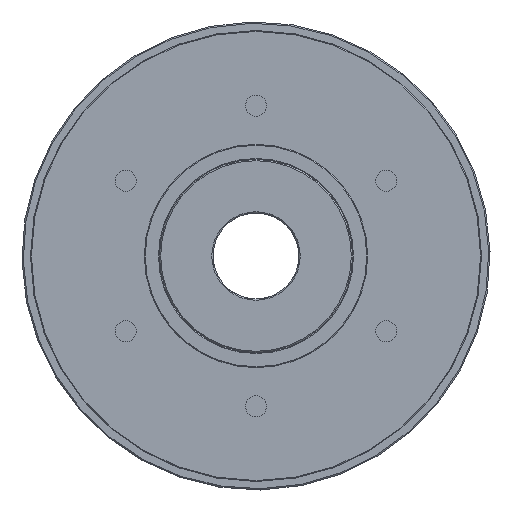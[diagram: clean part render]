
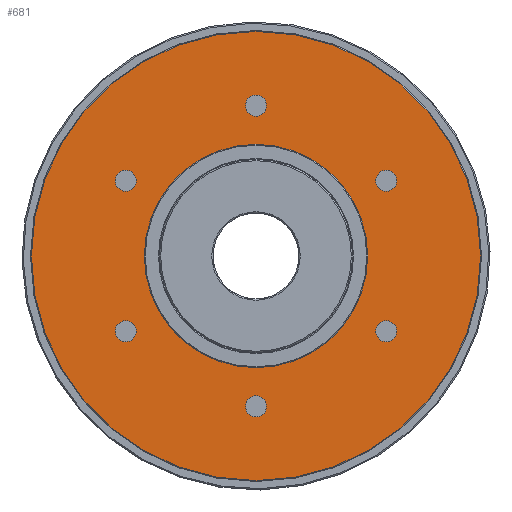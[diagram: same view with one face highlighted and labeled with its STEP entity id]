
A CAD part, left-side view. The second image highlights one B-rep face of the part: STEP entity #681.
In plain terms, the highlighted planar face has unit normal (-1, 0, 0).
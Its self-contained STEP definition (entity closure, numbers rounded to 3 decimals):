
#681 = ADVANCED_FACE( '', ( #1358, #1359, #1360, #1361, #1362, #1363, #1364, #1365 ), #1366, .T. );
#1358 = FACE_BOUND( '', #2028, .T. );
#1359 = FACE_BOUND( '', #2029, .T. );
#1360 = FACE_BOUND( '', #2030, .T. );
#1361 = FACE_BOUND( '', #2031, .T. );
#1362 = FACE_BOUND( '', #2032, .T. );
#1363 = FACE_BOUND( '', #2033, .T. );
#1364 = FACE_OUTER_BOUND( '', #2034, .T. );
#1365 = FACE_BOUND( '', #2035, .T. );
#1366 = PLANE( '', #2036 );
#2028 = EDGE_LOOP( '', ( #3020 ) );
#2029 = EDGE_LOOP( '', ( #3021 ) );
#2030 = EDGE_LOOP( '', ( #3022 ) );
#2031 = EDGE_LOOP( '', ( #3023 ) );
#2032 = EDGE_LOOP( '', ( #3024 ) );
#2033 = EDGE_LOOP( '', ( #3025 ) );
#2034 = EDGE_LOOP( '', ( #3026 ) );
#2035 = EDGE_LOOP( '', ( #3027 ) );
#2036 = AXIS2_PLACEMENT_3D( '', #3028, #3029, #3030 );
#3020 = ORIENTED_EDGE( '', *, *, #3348, .T. );
#3021 = ORIENTED_EDGE( '', *, *, #3553, .T. );
#3022 = ORIENTED_EDGE( '', *, *, #3544, .T. );
#3023 = ORIENTED_EDGE( '', *, *, #3374, .T. );
#3024 = ORIENTED_EDGE( '', *, *, #3249, .T. );
#3025 = ORIENTED_EDGE( '', *, *, #3414, .T. );
#3026 = ORIENTED_EDGE( '', *, *, #3431, .T. );
#3027 = ORIENTED_EDGE( '', *, *, #3484, .F. );
#3028 = CARTESIAN_POINT( '', ( 21.5, 0., 26. ) );
#3029 = DIRECTION( '', ( -1., 0., 0. ) );
#3030 = DIRECTION( '', ( 0., 0., 1. ) );
#3249 = EDGE_CURVE( '', #3656, #3656, #3657, .T. );
#3348 = EDGE_CURVE( '', #3820, #3820, #3821, .T. );
#3374 = EDGE_CURVE( '', #3860, #3860, #3861, .T. );
#3414 = EDGE_CURVE( '', #3917, #3917, #3918, .T. );
#3431 = EDGE_CURVE( '', #3943, #3943, #3944, .T. );
#3484 = EDGE_CURVE( '', #4017, #4017, #4018, .T. );
#3544 = EDGE_CURVE( '', #4097, #4097, #4098, .T. );
#3553 = EDGE_CURVE( '', #4108, #4108, #4109, .T. );
#3656 = VERTEX_POINT( '', #4448 );
#3657 = CIRCLE( '', #4449, 2.459 );
#3820 = VERTEX_POINT( '', #4728 );
#3821 = CIRCLE( '', #4729, 2.459 );
#3860 = VERTEX_POINT( '', #4771 );
#3861 = CIRCLE( '', #4772, 2.459 );
#3917 = VERTEX_POINT( '', #4840 );
#3918 = CIRCLE( '', #4841, 2.459 );
#3943 = VERTEX_POINT( '', #4880 );
#3944 = CIRCLE( '', #4881, 52.3 );
#4017 = VERTEX_POINT( '', #4968 );
#4018 = CIRCLE( '', #4969, 26. );
#4097 = VERTEX_POINT( '', #5112 );
#4098 = CIRCLE( '', #5113, 2.459 );
#4108 = VERTEX_POINT( '', #5123 );
#4109 = CIRCLE( '', #5124, 2.459 );
#4448 = CARTESIAN_POINT( '', ( 21.5, -32.44, 18.729 ) );
#4449 = AXIS2_PLACEMENT_3D( '', #5221, #5222, #5223 );
#4728 = CARTESIAN_POINT( '', ( 21.5, 32.44, 18.729 ) );
#4729 = AXIS2_PLACEMENT_3D( '', #5375, #5376, #5377 );
#4771 = CARTESIAN_POINT( '', ( 21.5, -32.44, -18.729 ) );
#4772 = AXIS2_PLACEMENT_3D( '', #5420, #5421, #5422 );
#4840 = CARTESIAN_POINT( '', ( 21.5, 0., 37.459 ) );
#4841 = AXIS2_PLACEMENT_3D( '', #5474, #5475, #5476 );
#4880 = CARTESIAN_POINT( '', ( 21.5, 0., 52.3 ) );
#4881 = AXIS2_PLACEMENT_3D( '', #5494, #5495, #5496 );
#4968 = CARTESIAN_POINT( '', ( 21.5, 0., 26. ) );
#4969 = AXIS2_PLACEMENT_3D( '', #5562, #5563, #5564 );
#5112 = CARTESIAN_POINT( '', ( 21.5, 0., -37.459 ) );
#5113 = AXIS2_PLACEMENT_3D( '', #5643, #5644, #5645 );
#5123 = CARTESIAN_POINT( '', ( 21.5, 32.44, -18.729 ) );
#5124 = AXIS2_PLACEMENT_3D( '', #5649, #5650, #5651 );
#5221 = CARTESIAN_POINT( '', ( 21.5, -30.311, 17.5 ) );
#5222 = DIRECTION( '', ( 1., 0., 0. ) );
#5223 = DIRECTION( '', ( 0., -0.866, 0.5 ) );
#5375 = CARTESIAN_POINT( '', ( 21.5, 30.311, 17.5 ) );
#5376 = DIRECTION( '', ( 1., 0., 0. ) );
#5377 = DIRECTION( '', ( 0., 0.866, 0.5 ) );
#5420 = CARTESIAN_POINT( '', ( 21.5, -30.311, -17.5 ) );
#5421 = DIRECTION( '', ( 1., 0., 0. ) );
#5422 = DIRECTION( '', ( 0., -0.866, -0.5 ) );
#5474 = CARTESIAN_POINT( '', ( 21.5, 0., 35. ) );
#5475 = DIRECTION( '', ( 1., 0., 0. ) );
#5476 = DIRECTION( '', ( 0., 0., 1. ) );
#5494 = CARTESIAN_POINT( '', ( 21.5, 0., 0. ) );
#5495 = DIRECTION( '', ( -1., 0., 0. ) );
#5496 = DIRECTION( '', ( 0., 0., 1. ) );
#5562 = CARTESIAN_POINT( '', ( 21.5, 0., 0. ) );
#5563 = DIRECTION( '', ( -1., 0., 0. ) );
#5564 = DIRECTION( '', ( 0., 0., 1. ) );
#5643 = CARTESIAN_POINT( '', ( 21.5, 0., -35. ) );
#5644 = DIRECTION( '', ( 1., 0., 0. ) );
#5645 = DIRECTION( '', ( 0., 0., -1. ) );
#5649 = CARTESIAN_POINT( '', ( 21.5, 30.311, -17.5 ) );
#5650 = DIRECTION( '', ( 1., 0., 0. ) );
#5651 = DIRECTION( '', ( 0., 0.866, -0.5 ) );
